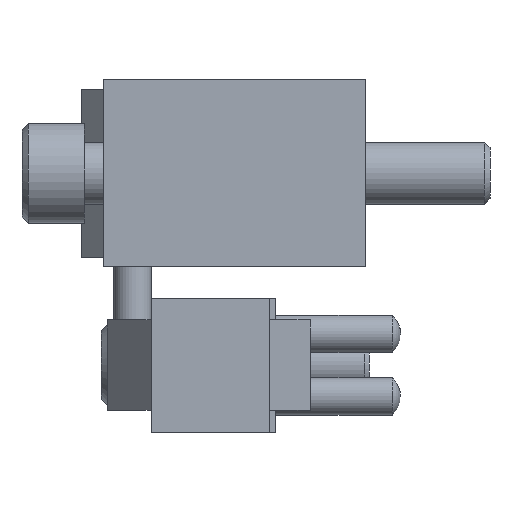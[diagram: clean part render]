
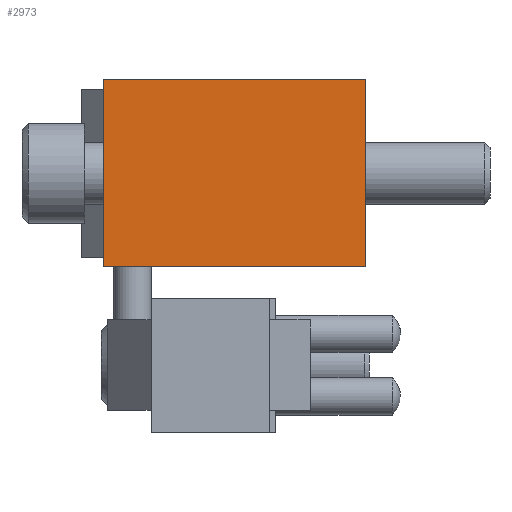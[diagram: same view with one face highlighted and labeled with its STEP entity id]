
A CAD part, left-side view. The second image highlights one B-rep face of the part: STEP entity #2973.
In plain terms, the highlighted planar face has unit normal (-1, 0, 0).
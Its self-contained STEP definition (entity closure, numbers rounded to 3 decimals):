
#2973 = ADVANCED_FACE( '', ( #6193 ), #6194, .F. );
#6193 = FACE_OUTER_BOUND( '', #9776, .T. );
#6194 = PLANE( '', #9777 );
#9776 = EDGE_LOOP( '', ( #18118, #18119, #18120, #18121 ) );
#9777 = AXIS2_PLACEMENT_3D( '', #18122, #18123, #18124 );
#18118 = ORIENTED_EDGE( '', *, *, #25223, .T. );
#18119 = ORIENTED_EDGE( '', *, *, #22680, .F. );
#18120 = ORIENTED_EDGE( '', *, *, #24124, .F. );
#18121 = ORIENTED_EDGE( '', *, *, #23565, .T. );
#18122 = CARTESIAN_POINT( '', ( 0., 42., -15. ) );
#18123 = DIRECTION( '', ( 1., 0., 0. ) );
#18124 = DIRECTION( '', ( 0., 0., -1. ) );
#22680 = EDGE_CURVE( '', #27422, #27417, #27424, .T. );
#23565 = EDGE_CURVE( '', #29009, #29007, #29010, .T. );
#24124 = EDGE_CURVE( '', #29009, #27422, #29889, .T. );
#25223 = EDGE_CURVE( '', #29007, #27417, #31543, .T. );
#27417 = VERTEX_POINT( '', #34337 );
#27422 = VERTEX_POINT( '', #34344 );
#27424 = LINE( '', #34347, #34348 );
#29007 = VERTEX_POINT( '', #36698 );
#29009 = VERTEX_POINT( '', #36701 );
#29010 = LINE( '', #36702, #36703 );
#29889 = LINE( '', #38039, #38040 );
#31543 = LINE( '', #40524, #40525 );
#34337 = CARTESIAN_POINT( '', ( 0., 0., 15. ) );
#34344 = CARTESIAN_POINT( '', ( 0., 42., 15. ) );
#34347 = CARTESIAN_POINT( '', ( 0., 42., 15. ) );
#34348 = VECTOR( '', #43604, 1000. );
#36698 = CARTESIAN_POINT( '', ( 0., 0., -15. ) );
#36701 = CARTESIAN_POINT( '', ( 0., 42., -15. ) );
#36702 = CARTESIAN_POINT( '', ( 0., 42., -15. ) );
#36703 = VECTOR( '', #44409, 1000. );
#38039 = CARTESIAN_POINT( '', ( 0., 42., -15. ) );
#38040 = VECTOR( '', #44873, 1000. );
#40524 = CARTESIAN_POINT( '', ( 0., 0., -15. ) );
#40525 = VECTOR( '', #45800, 1000. );
#43604 = DIRECTION( '', ( 0., -1., 0. ) );
#44409 = DIRECTION( '', ( 0., -1., 0. ) );
#44873 = DIRECTION( '', ( 0., 0., 1. ) );
#45800 = DIRECTION( '', ( 0., 0., 1. ) );
